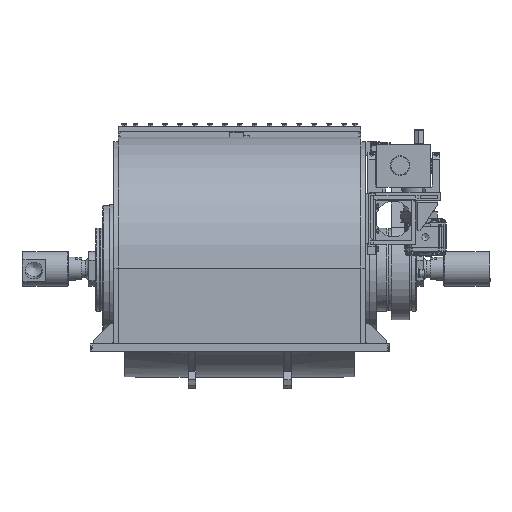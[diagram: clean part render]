
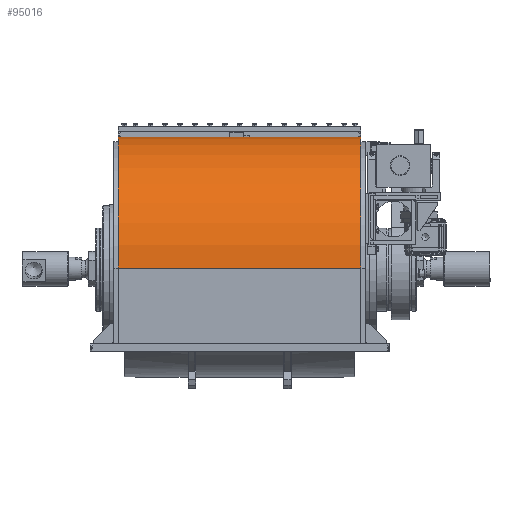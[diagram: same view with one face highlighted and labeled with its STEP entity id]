
A CAD part, front view. The second image highlights one B-rep face of the part: STEP entity #95016.
In plain terms, the highlighted cylindrical face has radius 440 mm (diameter 880 mm), a partial arc.
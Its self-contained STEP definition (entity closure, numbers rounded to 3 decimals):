
#11638=FACE_OUTER_BOUND('',#17141,.T.);
#17141=EDGE_LOOP('',(#76124,#76125,#76126,#76127));
#23184=LINE('',#249238,#29714);
#23185=LINE('',#249242,#29715);
#29714=VECTOR('',#119238,10.);
#29715=VECTOR('',#119241,10.);
#34466=CIRCLE('',#101924,440.);
#34467=CIRCLE('',#101925,440.);
#41564=VERTEX_POINT('',#249236);
#41565=VERTEX_POINT('',#249237);
#41566=VERTEX_POINT('',#249239);
#41567=VERTEX_POINT('',#249241);
#53654=EDGE_CURVE('',#41564,#41565,#23184,.T.);
#53655=EDGE_CURVE('',#41566,#41564,#34466,.T.);
#53656=EDGE_CURVE('',#41566,#41567,#23185,.T.);
#53657=EDGE_CURVE('',#41565,#41567,#34467,.T.);
#76124=ORIENTED_EDGE('',*,*,#53654,.F.);
#76125=ORIENTED_EDGE('',*,*,#53655,.F.);
#76126=ORIENTED_EDGE('',*,*,#53656,.T.);
#76127=ORIENTED_EDGE('',*,*,#53657,.F.);
#86264=CYLINDRICAL_SURFACE('',#101923,440.);
#95016=ADVANCED_FACE('',(#11638),#86264,.T.);
#101923=AXIS2_PLACEMENT_3D('',#249235,#119236,#119237);
#101924=AXIS2_PLACEMENT_3D('',#249240,#119239,#119240);
#101925=AXIS2_PLACEMENT_3D('',#249243,#119242,#119243);
#119236=DIRECTION('center_axis',(-1.,0.,0.));
#119237=DIRECTION('ref_axis',(0.,-1.,0.));
#119238=DIRECTION('',(1.,0.,0.));
#119239=DIRECTION('center_axis',(-1.,0.,0.));
#119240=DIRECTION('ref_axis',(0.,-1.,0.));
#119241=DIRECTION('',(1.,0.,0.));
#119242=DIRECTION('center_axis',(1.,0.,0.));
#119243=DIRECTION('ref_axis',(0.,0.,
1.));
#249235=CARTESIAN_POINT('Origin',(221.581,-427.37,196.));
#249236=CARTESIAN_POINT('',(-185.919,-427.37,636.));
#249237=CARTESIAN_POINT('',(629.081,-427.37,636.));
#249238=CARTESIAN_POINT('',(221.581,-427.37,636.));
#249239=CARTESIAN_POINT('',(-185.919,-867.37,196.));
#249240=CARTESIAN_POINT('Origin',(-185.919,-427.37,196.));
#249241=CARTESIAN_POINT('',(629.081,-867.37,196.));
#249242=CARTESIAN_POINT('',(221.581,-867.37,196.));
#249243=CARTESIAN_POINT('Origin',(629.081,-427.37,196.));
